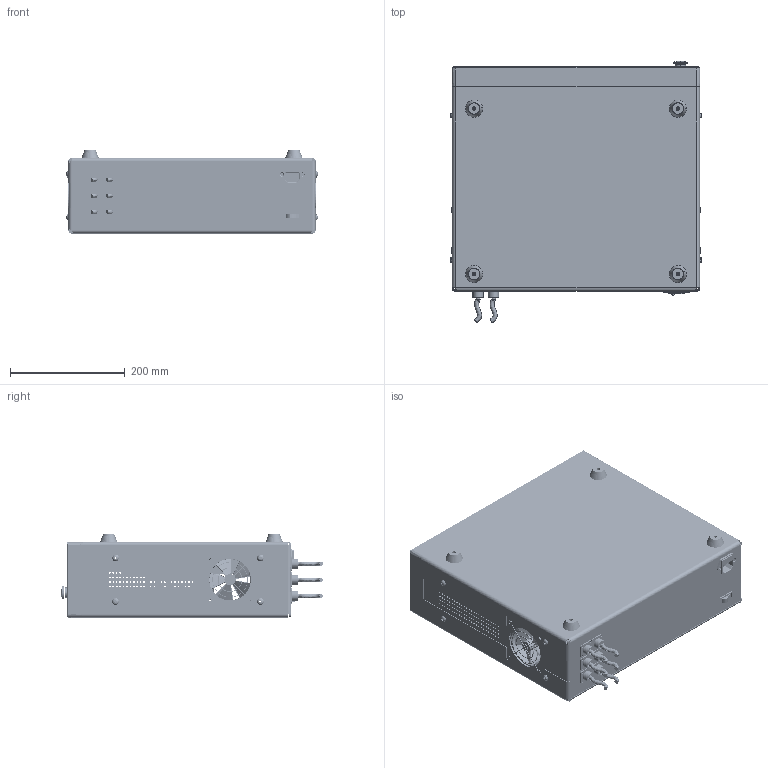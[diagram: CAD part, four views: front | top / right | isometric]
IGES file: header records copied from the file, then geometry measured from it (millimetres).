
Start section: SolidWorks IGES file using analytic representation for surfaces
Global section: file name: E:\wk\HXP-100\TMC-NET-HXP-SS\TMC-NET-HXP-SS.igs; native system: SolidWorks 2020; preprocessor: SolidWorks 2020; author: LIYUE; date: 230421.171815; units: millimetre
Bounding box: 439.55 x 457.03 x 145 mm (x, y, z)
Surface area: 1150667.8 mm2 (no closed solid volume)
Topology: 0 solids, 0 shells, 1450 faces, 25906 edges, 25902 vertices
Faces by surface type: revolution 894, bspline 556
